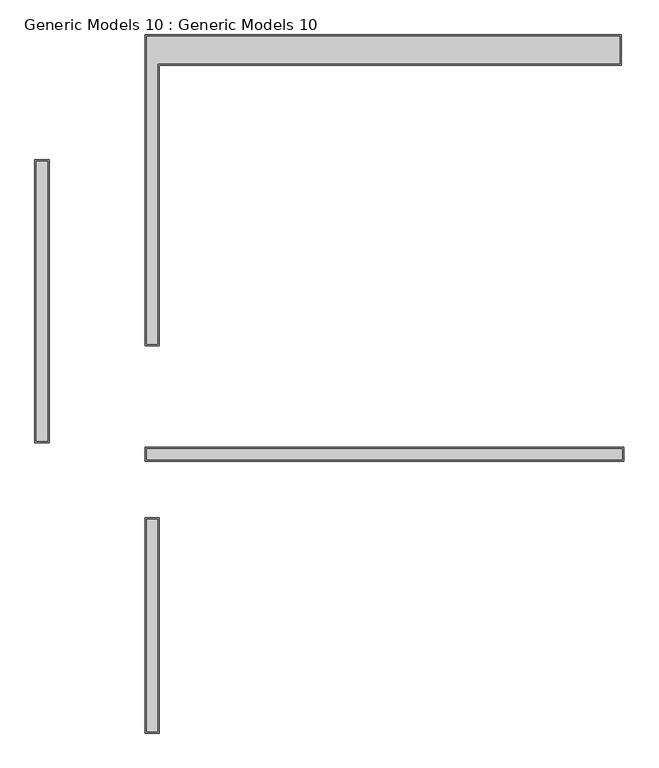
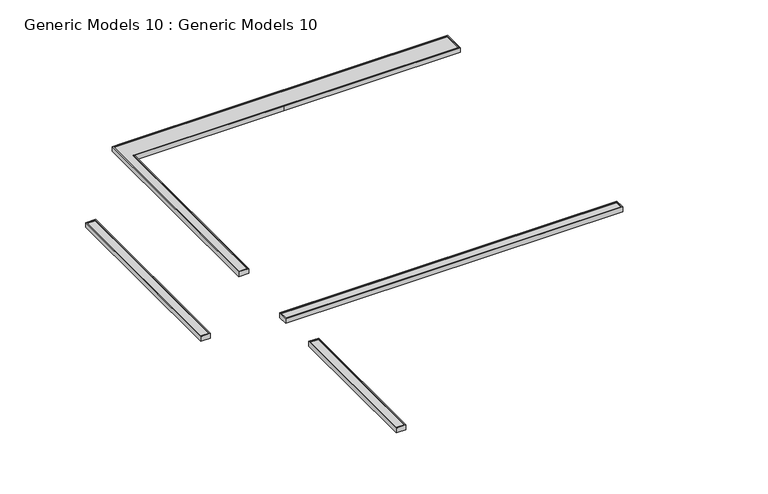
"""IFC4 building model written with IfcOpenShell, lengths in millimetres: proxy geometry, Generic Models 10 : Generic Models 10."""

from ifc_helpers import new_model, si_unit, origin, place, context, project, spatial, faceted_brep, source, transform, mapped, element, save


def generic_models_10_generic_models_10_160b2d12(model_context):
    return source(origin(), model_context, "Body", "Brep", [
        faceted_brep([(16743.1337784, -19316.9555254, 250.0), (16743.1337784, -26933.0793342, 250.0), (17243.1337784, -26933.0793342, 250.0), (17243.1337784, -19316.9555254, 250.0), (17193.1337784, -26883.0793342, 250.0), (16793.1337784, -26883.0793342, 250.0), (16793.1337784, -19366.9555254, 250.0), (17193.1337784, -19366.9555254, 250.0), (16743.1337784, -19316.9555254, 0.0), (17243.1337784, -19316.9555254, 0.0), (17243.1337784, -26933.0793342, 0.0), (16743.1337784, -26933.0793342, 0.0), (17193.1337784, -26883.0793342, 220.0), (17193.1337784, -19366.9555254, 220.0), (16793.1337784, -19366.9555254, 220.0), (16793.1337784, -26883.0793342, 220.0)], [[[0, 1, 2, 3], [4, 5, 6, 7]], [[8, 9, 10, 11]], [[1, 0, 8, 11]], [[2, 1, 11, 10]], [[3, 2, 10, 9]], [[0, 3, 9, 8]], [[12, 13, 14, 15]], [[12, 15, 5, 4]], [[15, 14, 6, 5]], [[14, 13, 7, 6]], [[13, 12, 4, 7]]]),
        faceted_brep([(16743.1337784, -17316.9555254, 250.0), (33695.4320144, -17316.9555254, 250.0), (33695.4320144, -16816.9555254, 250.0), (16743.1337784, -16816.9555254, 250.0), (33645.4320144, -16866.9555254, 250.0), (33645.4320144, -17266.9555254, 250.0), (16793.1337784, -17266.9555254, 250.0), (16793.1337784, -16866.9555254, 250.0), (16743.1337784, -17316.9555254, 0.0), (16743.1337784, -16816.9555254, 0.0), (33695.4320144, -16816.9555254, 0.0), (33695.4320144, -17316.9555254, 0.0), (33645.4320144, -16866.9555254, 220.0), (16793.1337784, -16866.9555254, 220.0), (16793.1337784, -17266.9555254, 220.0), (33645.4320144, -17266.9555254, 220.0)], [[[0, 1, 2, 3], [4, 5, 6, 7]], [[8, 9, 10, 11]], [[1, 0, 8, 11]], [[2, 1, 11, 10]], [[3, 2, 10, 9]], [[0, 3, 9, 8]], [[12, 13, 14, 15]], [[12, 15, 5, 4]], [[15, 14, 6, 5]], [[14, 13, 7, 6]], [[13, 12, 4, 7]]]),
        faceted_brep([(16743.1337784, -2233.0793342, 250.0), (16743.1337784, -13233.0793342, 250.0), (17243.1337784, -13233.0793342, 250.0), (17243.1337784, -3306.9781298, 250.0), (24743.1337784, -3306.9781298, 250.0), (33607.1705138, -3306.9781298, 250.0), (33607.1705138, -2233.0793342, 250.0), (17243.1337784, -2233.0793342, 250.0), (17193.1337784, -13183.0793342, 250.0), (16793.1337784, -13183.0793342, 250.0), (16793.1337784, -2283.0793342, 250.0), (33557.1705138, -2283.0793342, 250.0), (33557.1705138, -3256.9781298, 250.0), (17193.1337784, -3256.9781298, 250.0), (16743.1337784, -2233.0793342, 0.0), (17243.1337784, -2233.0793342, 0.0), (33607.1705138, -2233.0793342, 0.0), (33607.1705138, -3306.9781298, 0.0), (24743.1337784, -3306.9781298, 0.0), (17243.1337784, -3306.9781298, 0.0), (17243.1337784, -13233.0793342, 0.0), (16743.1337784, -13233.0793342, 0.0), (17193.1337784, -13183.0793342, 220.0), (17193.1337784, -3256.9781298, 220.0), (33557.1705138, -3256.9781298, 220.0), (33557.1705138, -2283.0793342, 220.0), (16793.1337784, -2283.0793342, 220.0), (16793.1337784, -13183.0793342, 220.0)], [[[0, 1, 2, 3, 4, 5, 6, 7], [8, 9, 10, 11, 12, 13]], [[14, 15, 16, 17, 18, 19, 20, 21]], [[1, 0, 14, 21]], [[2, 1, 21, 20]], [[3, 2, 20, 19]], [[0, 7, 15, 14]], [[22, 23, 24, 25, 26, 27]], [[22, 27, 9, 8]], [[27, 26, 10, 9]], [[26, 25, 11, 10]], [[23, 22, 8, 13]], [[4, 3, 19, 18]], [[5, 4, 18, 17]], [[6, 5, 17, 16]], [[7, 6, 16, 15]], [[25, 24, 12, 11]], [[24, 23, 13, 12]]]),
        faceted_brep([(12843.1337784, -6658.2564752, 250.0), (12843.1337784, -16658.2564752, 250.0), (13343.1337784, -16658.2564752, 250.0), (13343.1337784, -6658.2564752, 250.0), (13293.1337784, -16608.2564752, 250.0), (12893.1337784, -16608.2564752, 250.0), (12893.1337784, -6708.2564752, 250.0), (13293.1337784, -6708.2564752, 250.0), (12843.1337784, -6658.2564752, 0.0), (13343.1337784, -6658.2564752, 0.0), (13343.1337784, -16658.2564752, 0.0), (12843.1337784, -16658.2564752, 0.0), (13293.1337784, -16608.2564752, 220.0), (13293.1337784, -6708.2564752, 220.0), (12893.1337784, -6708.2564752, 220.0), (12893.1337784, -16608.2564752, 220.0)], [[[0, 1, 2, 3], [4, 5, 6, 7]], [[8, 9, 10, 11]], [[1, 0, 8, 11]], [[2, 1, 11, 10]], [[3, 2, 10, 9]], [[0, 3, 9, 8]], [[12, 13, 14, 15]], [[12, 15, 5, 4]], [[15, 14, 6, 5]], [[14, 13, 7, 6]], [[13, 12, 4, 7]]]),
    ])


if __name__ == "__main__":
    model = new_model("IFC4")
    model_context = context("Model", 3, world=origin())
    ifc_project = project(units=[si_unit("LENGTHUNIT", "METRE", prefix="MILLI")], contexts=[model_context])
    site = spatial("IfcSite", under=ifc_project)
    building = spatial("IfcBuilding", under=site)
    placement = place(None, origin())
    generic_models_10_generic_models_10_shape = generic_models_10_generic_models_10_160b2d12(model_context)
    element("IfcBuildingElementProxy", 1, Name="Generic Models 10 : Generic Models 10", ObjectType="Generic Models 10 : Generic Models 10", at=placement, inside=building, context=model_context, shape_type="MappedRepresentation", body=[
        mapped(generic_models_10_generic_models_10_shape, transform((0.0, 0.0, 0.0), x_axis=(1.0, 0.0, 0.0), y_axis=(0.0, 1.0, 0.0), z_axis=(0.0, 0.0, 1.0))),
    ])
    save(model, "model.ifc")
